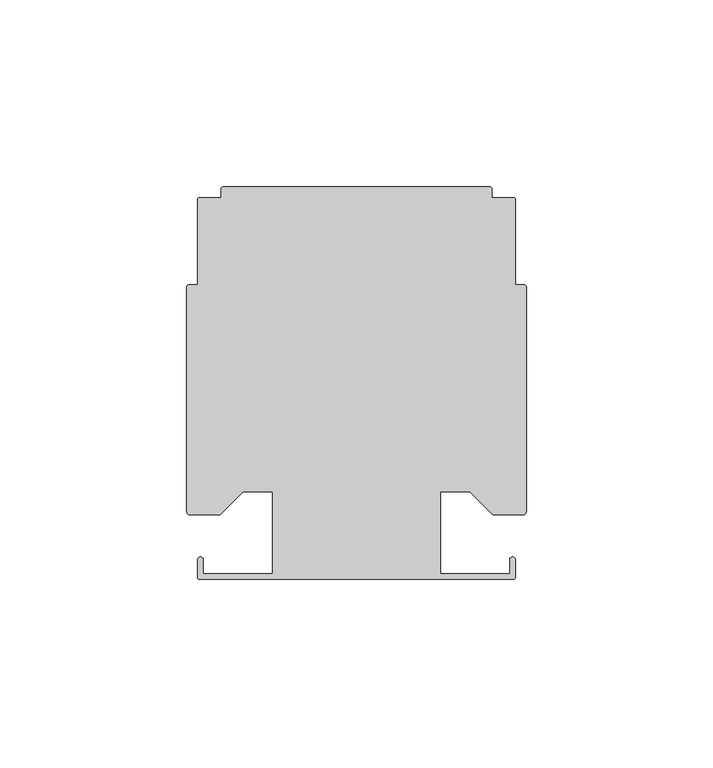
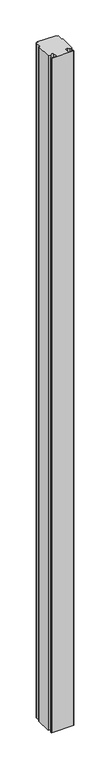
"""IFC4 building model written with IfcOpenShell, lengths in millimetres: member geometry, Прямоугольный импост : AMG-1-Профиль 105Х85 3 грани средний 2 стороны."""

from ifc_helpers import new_model, si_unit, point, frame, frame_2d, origin, place, context, project, spatial, polyline, circle_curve, trimmed, segment, composite_curve, outline, extrude, source, transform, mapped, element, save


def member_fef25791(model_context):
    return source(origin(), model_context, "Body", "SweptSolid", [
        extrude(outline(composite_curve([segment(polyline([(42.4976562, -36.8135237), (42.4976562, -41.5999999)]), True, "CONTINUOUS"), segment(trimmed(circle_curve(frame_2d((41.9976562, -41.5999999)), 0.5), [point((42.4976562, -41.5999999))], [point((41.9976562, -42.0999999))], False, "CARTESIAN"), True, "CONTINUOUS"), segment(polyline([(41.9976562, -42.0999999), (-42.0023438, -42.0999999)]), True, "CONTINUOUS"), segment(trimmed(circle_curve(frame_2d((-42.0023438, -41.5999999)), 0.5), [point((-42.0023438, -42.0999999))], [point((-42.5023438, -41.5999999))], False, "CARTESIAN"), True, "CONTINUOUS"), segment(polyline([(-42.5023438, -41.5999999), (-42.5023438, -36.8999999)]), True, "CONTINUOUS"), segment(trimmed(circle_curve(frame_2d((-41.7023438, -36.8999999)), 0.8), [point((-42.5023438, -36.8999999))], [point((-41.7023438, -36.0999999))], False, "CARTESIAN"), True, "CONTINUOUS"), segment(polyline([(-41.7023438, -36.0999999), (-41.0023438, -36.4566677), (-41.0023438, -40.5999999), (-22.5023438, -40.5999999), (-22.5023438, -18.6999999), (-30.3523438, -18.6999999), (-36.5023438, -24.8499999), (-44.6023438, -24.8499999)]), True, "CONTINUOUS"), segment(trimmed(circle_curve(frame_2d((-44.6023438, -24.0499999)), 0.8), [point((-44.6023438, -24.8499999))], [point((-45.4023438, -24.0499999))], False, "CARTESIAN"), True, "CONTINUOUS"), segment(polyline([(-45.4023438, -24.0499999), (-45.4023438, 36.1500001)]), True, "CONTINUOUS"), segment(trimmed(circle_curve(frame_2d((-44.9023438, 36.1500001)), 0.5), [point((-45.4023438, 36.1500001))], [point((-44.9023438, 36.6500001))], False, "CARTESIAN"), True, "CONTINUOUS"), segment(polyline([(-44.9023438, 36.6500001), (-42.5023438, 36.6500001), (-42.5023438, 59.4000001)]), True, "CONTINUOUS"), segment(trimmed(circle_curve(frame_2d((-42.0023438, 59.4000001)), 0.5), [point((-42.5023438, 59.4000001))], [point((-42.0023438, 59.9000001))], False, "CARTESIAN"), True, "CONTINUOUS"), segment(polyline([(-42.0023438, 59.9000001), (-36.2523438, 59.9000001), (-36.2523438, 62.3000001)]), True, "CONTINUOUS"), segment(trimmed(circle_curve(frame_2d((-35.7523438, 62.3000001)), 0.5), [point((-36.2523438, 62.3000001))], [point((-35.7523438, 62.8000001))], False, "CARTESIAN"), True, "CONTINUOUS"), segment(polyline([(-35.7523438, 62.8000001), (35.7476562, 62.8000001)]), True, "CONTINUOUS"), segment(trimmed(circle_curve(frame_2d((35.7476562, 62.3000001)), 0.5), [point((35.7476562, 62.8000001))], [point((36.2476562, 62.3000001))], False, "CARTESIAN"), True, "CONTINUOUS"), segment(polyline([(36.2476562, 62.3000001), (36.2476562, 59.9000001), (41.9976562, 59.9000001)]), True, "CONTINUOUS"), segment(trimmed(circle_curve(frame_2d((41.9976562, 59.4000001)), 0.5), [point((41.9976562, 59.9000001))], [point((42.4976562, 59.4000001))], False, "CARTESIAN"), True, "CONTINUOUS"), segment(polyline([(42.4976562, 59.4000001), (42.4976562, 36.6500001), (44.8976562, 36.6500001)]), True, "CONTINUOUS"), segment(trimmed(circle_curve(frame_2d((44.8976562, 36.1500001)), 0.5), [point((44.8976562, 36.6500001))], [point((45.3976562, 36.1500001))], False, "CARTESIAN"), True, "CONTINUOUS"), segment(polyline([(45.3976562, 36.1500001), (45.3976562, -24.0499999)]), True, "CONTINUOUS"), segment(trimmed(circle_curve(frame_2d((44.5976562, -24.0499999)), 0.8), [point((45.3976562, -24.0499999))], [point((44.5976562, -24.8499999))], False, "CARTESIAN"), True, "CONTINUOUS"), segment(polyline([(44.5976562, -24.8499999), (36.5023438, -24.8499999), (30.3523438, -18.6999999), (22.5023438, -18.6999999), (22.5023438, -40.5999999), (41.0023438, -40.5999999), (41.0023438, -36.4566677), (41.7023438, -36.0999999)]), True, "CONTINUOUS"), segment(trimmed(circle_curve(frame_2d((41.7023438, -36.8999999)), 0.8), [point((41.7023438, -36.0999999))], [point((42.4976562, -36.8135237))], False, "CARTESIAN"), True, "CONTINUOUS")], self_intersect=False)), frame((0.0, 0.0, -2717.7849139), z_axis=(0.0, 0.0, 1.0), x_axis=(1.0, 0.0, 0.0)), (0.0, 0.0, 1.0), 2717.7849139),
    ])


if __name__ == "__main__":
    model = new_model("IFC4")
    model_context = context("Model", 3, world=origin())
    ifc_project = project(units=[si_unit("LENGTHUNIT", "METRE", prefix="MILLI")], contexts=[model_context])
    site = spatial("IfcSite", under=ifc_project)
    building = spatial("IfcBuilding", under=site)
    placement = place(None, origin())
    member_shape = member_fef25791(model_context)
    element("IfcMember", 1, ObjectType="Прямоугольный импост : AMG-1-Профиль 105Х85 3 грани средний 2 стороны", at=placement, inside=building, context=model_context, shape_type="MappedRepresentation", body=[
        mapped(member_shape, transform((0.0, 0.0, 0.0), x_axis=(1.0, 0.0, 0.0), y_axis=(0.0, 1.0, 0.0), z_axis=(0.0, 0.0, 1.0))),
    ])
    save(model, "model.ifc")
